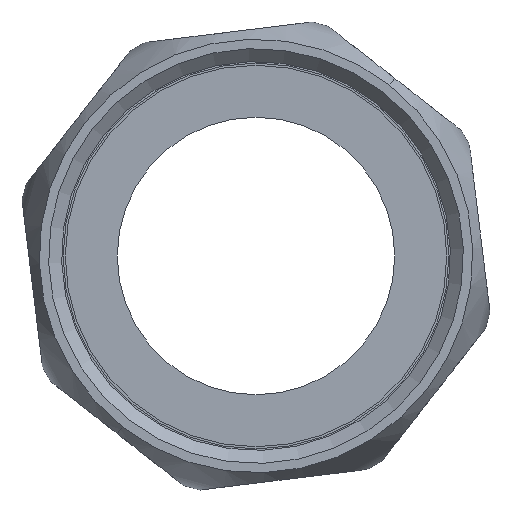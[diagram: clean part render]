
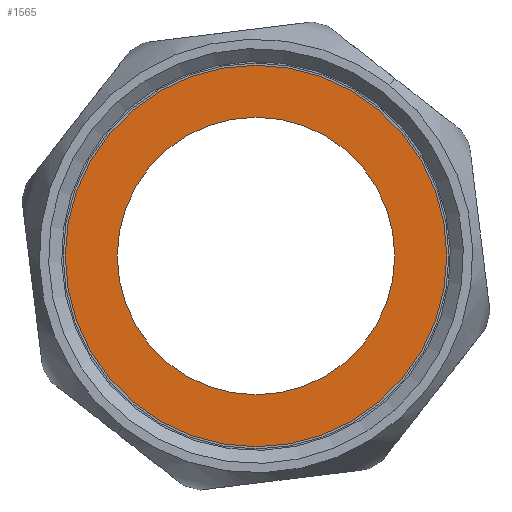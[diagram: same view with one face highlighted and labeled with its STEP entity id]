
A CAD part, left-side view. The second image highlights one B-rep face of the part: STEP entity #1565.
In plain terms, the highlighted planar face has unit normal (-1, 0, 0) as drawn and (0, 0, 1) by its records, which use the part's own axes.
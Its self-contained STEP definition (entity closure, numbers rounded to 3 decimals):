
#1503=CARTESIAN_POINT('',(16.0,0.,2.0));
#1504=VERTEX_POINT('',#1503);
#1505=CARTESIAN_POINT('',(0.0,0.0,2.0));
#1506=DIRECTION('',(0.0,0.0,1.0));
#1507=DIRECTION('',(0.0,1.0,0.0));
#1508=AXIS2_PLACEMENT_3D('',#1505,#1506,#1507);
#1509=CIRCLE('',#1508,16.0);
#1510=EDGE_CURVE('',#1504,#1504,#1509,.F.);
#1542=CARTESIAN_POINT('',(-22.0,0.,2.0));
#1543=VERTEX_POINT('',#1542);
#1544=CARTESIAN_POINT('',(0.0,0.0,2.0));
#1545=DIRECTION('',(0.0,0.0,1.0));
#1546=DIRECTION('',(0.0,1.0,0.0));
#1547=AXIS2_PLACEMENT_3D('',#1544,#1545,#1546);
#1548=CIRCLE('',#1547,22.0);
#1549=EDGE_CURVE('',#1543,#1543,#1548,.F.);
#1554=CARTESIAN_POINT('',(24.2,-24.2,2.0));
#1555=DIRECTION('',(0.0,0.0,-1.0));
#1556=DIRECTION('',(-1.0,0.0,0.0));
#1557=AXIS2_PLACEMENT_3D('',#1554,#1555,#1556);
#1558=PLANE('',#1557);
#1559=ORIENTED_EDGE('',*,*,#1549,.F.);
#1560=EDGE_LOOP('',(#1559));
#1561=FACE_OUTER_BOUND('',#1560,.T.);
#1562=ORIENTED_EDGE('',*,*,#1510,.T.);
#1563=EDGE_LOOP('',(#1562));
#1564=FACE_BOUND('',#1563,.T.);
#1565=ADVANCED_FACE('',(#1561,#1564),#1558,.F.);
